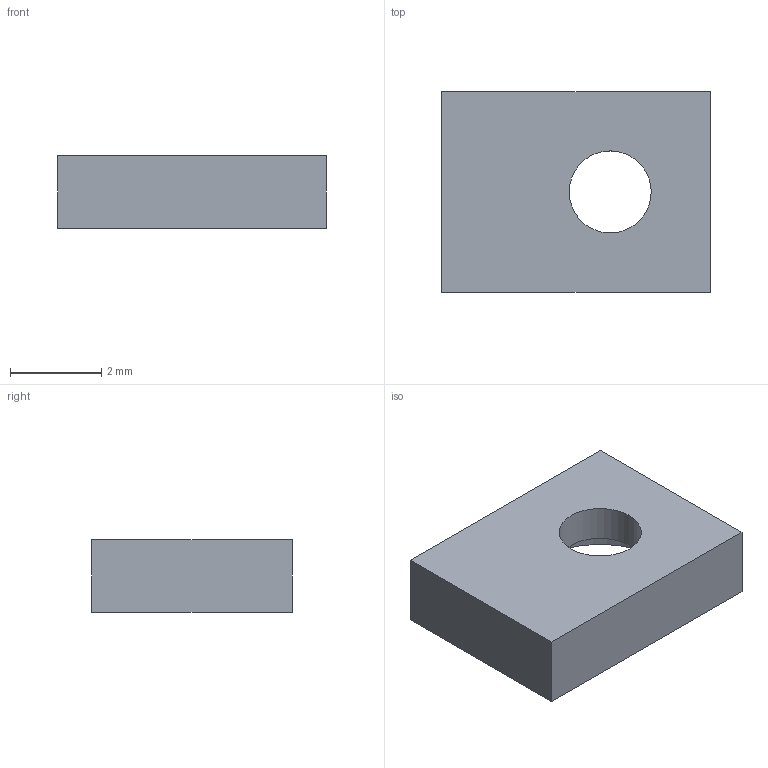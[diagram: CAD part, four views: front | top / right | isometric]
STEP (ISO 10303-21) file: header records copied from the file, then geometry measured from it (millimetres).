
FILE_DESCRIPTION(('Open CASCADE Model'),'2;1');
FILE_NAME('Open CASCADE Shape Model','2026-09-06T11:45:45',('Author'),( 'Open CASCADE'),'Open CASCADE STEP processor 7.7','Open CASCADE 7.7' ,'Unknown');
FILE_SCHEMA(('AUTOMOTIVE_DESIGN { 1 0 10303 214 1 1 1 1 }'));
Length unit declared in the file: millimetre
Products named in the file (1): Open CASCADE STEP translator 7.7 13
Bounding box: 5.9 x 4.4 x 1.6 mm (x, y, z)
Volume: 31.4 mm3; surface area: 93.4 mm2
Topology: 1 solids, 1 shells, 9 faces, 18 edges, 12 vertices
Faces by surface type: plane 7, cylinder 2
Full cylindrical faces by diameter (mm): 1.8 x1, 3.6 x1
Entity records: 493 total; most frequent: CARTESIAN_POINT 94, DIRECTION 75, LINE 46, VECTOR 46, ORIENTED_EDGE 36, PCURVE 36, DEFINITIONAL_REPRESENTATION 36, EDGE_CURVE 18
